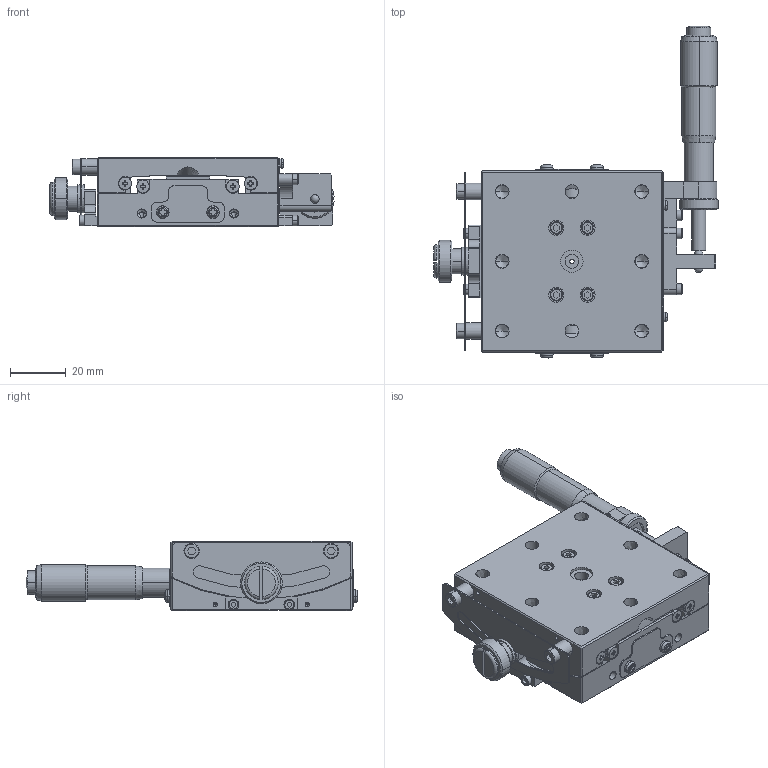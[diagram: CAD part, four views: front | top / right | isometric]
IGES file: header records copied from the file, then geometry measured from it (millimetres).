
Global section: file name: No Iges File Name specified; native system: AutoDesk Inventor R12.0; preprocessor: AutoDesk Inventor Iges Exporter R12.0; date: 20140409.172455; units: millimetre
Bounding box: 101.93 x 119 x 25 mm (x, y, z)
Volume: 89486.6 mm3; surface area: 47142 mm2
Topology: 2 solids, 45 shells, 1409 faces, 3527 edges, 2222 vertices
Faces by surface type: plane 588, bspline 383, cylinder 208, cone 114, revolution 75, sphere 27, torus 14
